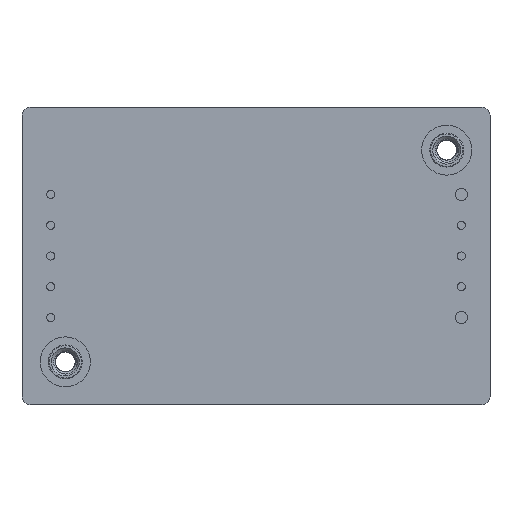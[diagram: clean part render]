
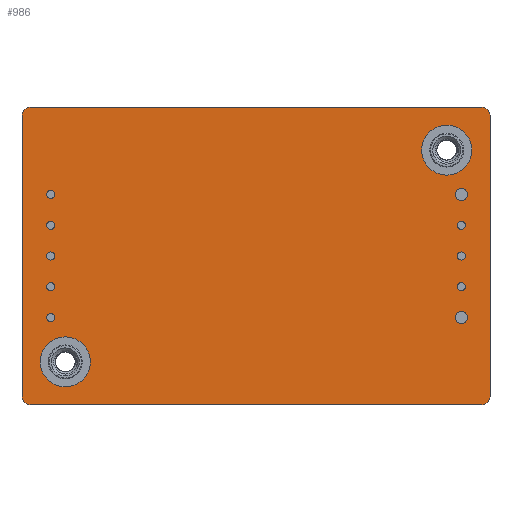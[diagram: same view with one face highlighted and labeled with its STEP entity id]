
A CAD part, front view. The second image highlights one B-rep face of the part: STEP entity #986.
In plain terms, the highlighted planar face has unit normal (0, -1, 0).
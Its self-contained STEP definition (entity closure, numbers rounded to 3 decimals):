
#72=LINE('',#1590,#104);
#76=LINE('',#1602,#108);
#80=LINE('',#1614,#112);
#84=LINE('',#1624,#116);
#104=VECTOR('',#1261,10.);
#108=VECTOR('',#1273,10.);
#112=VECTOR('',#1285,10.);
#116=VECTOR('',#1297,10.);
#140=PLANE('',#1101);
#179=FACE_BOUND('',#323,.T.);
#180=FACE_BOUND('',#324,.T.);
#230=FACE_OUTER_BOUND('',#322,.T.);
#322=EDGE_LOOP('',(#757,#758,#759,#760,#761,#762,#763,#764));
#323=EDGE_LOOP('',(#765));
#324=EDGE_LOOP('',(#766));
#432=CIRCLE('',#1078,3.1);
#434=CIRCLE('',#1082,3.1);
#436=CIRCLE('',#1086,1.);
#438=CIRCLE('',#1090,1.);
#440=CIRCLE('',#1094,1.);
#442=CIRCLE('',#1098,1.);
#502=VERTEX_POINT('',#1568);
#504=VERTEX_POINT('',#1574);
#507=VERTEX_POINT('',#1581);
#508=VERTEX_POINT('',#1583);
#510=VERTEX_POINT('',#1589);
#512=VERTEX_POINT('',#1595);
#514=VERTEX_POINT('',#1601);
#516=VERTEX_POINT('',#1607);
#518=VERTEX_POINT('',#1613);
#520=VERTEX_POINT('',#1619);
#592=EDGE_CURVE('',#502,#502,#432,.T.);
#594=EDGE_CURVE('',#504,#504,#434,.T.);
#597=EDGE_CURVE('',#508,#507,#436,.T.);
#600=EDGE_CURVE('',#510,#508,#72,.T.);
#603=EDGE_CURVE('',#512,#510,#438,.T.);
#606=EDGE_CURVE('',#514,#512,#76,.T.);
#609=EDGE_CURVE('',#516,#514,#440,.T.);
#612=EDGE_CURVE('',#518,#516,#80,.T.);
#615=EDGE_CURVE('',#520,#518,#442,.T.);
#618=EDGE_CURVE('',#507,#520,#84,.T.);
#757=ORIENTED_EDGE('',*,*,#618,.T.);
#758=ORIENTED_EDGE('',*,*,#615,.T.);
#759=ORIENTED_EDGE('',*,*,#612,.T.);
#760=ORIENTED_EDGE('',*,*,#609,.T.);
#761=ORIENTED_EDGE('',*,*,#606,.T.);
#762=ORIENTED_EDGE('',*,*,#603,.T.);
#763=ORIENTED_EDGE('',*,*,#600,.T.);
#764=ORIENTED_EDGE('',*,*,#597,.T.);
#765=ORIENTED_EDGE('',*,*,#592,.T.);
#766=ORIENTED_EDGE('',*,*,#594,.T.);
#986=ADVANCED_FACE('',(#230,#179,#180),#140,.F.);
#1078=AXIS2_PLACEMENT_3D('',#1569,#1238,#1239);
#1082=AXIS2_PLACEMENT_3D('',#1575,#1246,#1247);
#1086=AXIS2_PLACEMENT_3D('',#1584,#1255,#1256);
#1090=AXIS2_PLACEMENT_3D('',#1596,#1267,#1268);
#1094=AXIS2_PLACEMENT_3D('',#1608,#1279,#1280);
#1098=AXIS2_PLACEMENT_3D('',#1620,#1291,#1292);
#1101=AXIS2_PLACEMENT_3D('',#1626,#1300,#1301);
#1238=DIRECTION('center_axis',(0.,1.,0.));
#1239=DIRECTION('ref_axis',(-1.,0.,0.));
#1246=DIRECTION('center_axis',(0.,1.,0.));
#1247=DIRECTION('ref_axis',(-1.,0.,0.));
#1255=DIRECTION('center_axis',(0.,-1.,0.));
#1256=DIRECTION('ref_axis',(-1.,0.,0.));
#1261=DIRECTION('',(-1.,0.,0.));
#1267=DIRECTION('center_axis',(0.,-1.,0.));
#1268=DIRECTION('ref_axis',(0.,0.,1.));
#1273=DIRECTION('',(0.,0.,1.));
#1279=DIRECTION('center_axis',(0.,-1.,0.));
#1280=DIRECTION('ref_axis',(1.,0.,0.));
#1285=DIRECTION('',(1.,0.,0.));
#1291=DIRECTION('center_axis',(0.,-1.,0.));
#1292=DIRECTION('ref_axis',(0.,0.,-1.));
#1297=DIRECTION('',(0.,0.,-1.));
#1300=DIRECTION('center_axis',(0.,1.,0.));
#1301=DIRECTION('ref_axis',(0.,0.,1.));
#1568=CARTESIAN_POINT('',(-20.5,-11.1,-13.1));
#1569=CARTESIAN_POINT('Origin',(-23.6,-11.1,-13.1));
#1574=CARTESIAN_POINT('',(26.7,-11.1,13.1));
#1575=CARTESIAN_POINT('Origin',(23.6,-11.1,13.1));
#1581=CARTESIAN_POINT('',(-28.95,-11.1,17.4));
#1583=CARTESIAN_POINT('',(-27.95,-11.1,18.4));
#1584=CARTESIAN_POINT('Origin',(-27.95,-11.1,17.4));
#1589=CARTESIAN_POINT('',(27.95,-11.1,18.4));
#1590=CARTESIAN_POINT('',(-27.95,-11.1,18.4));
#1595=CARTESIAN_POINT('',(28.95,-11.1,17.4));
#1596=CARTESIAN_POINT('Origin',(27.95,-11.1,17.4));
#1601=CARTESIAN_POINT('',(28.95,-11.1,-17.4));
#1602=CARTESIAN_POINT('',(28.95,-11.1,17.4));
#1607=CARTESIAN_POINT('',(27.95,-11.1,-18.4));
#1608=CARTESIAN_POINT('Origin',(27.95,-11.1,-17.4));
#1613=CARTESIAN_POINT('',(-27.95,-11.1,-18.4));
#1614=CARTESIAN_POINT('',(27.95,-11.1,-18.4));
#1619=CARTESIAN_POINT('',(-28.95,-11.1,-17.4));
#1620=CARTESIAN_POINT('Origin',(-27.95,-11.1,-17.4));
#1624=CARTESIAN_POINT('',(-28.95,-11.1,-17.4));
#1626=CARTESIAN_POINT('Origin',(0.,-11.1,0.));
